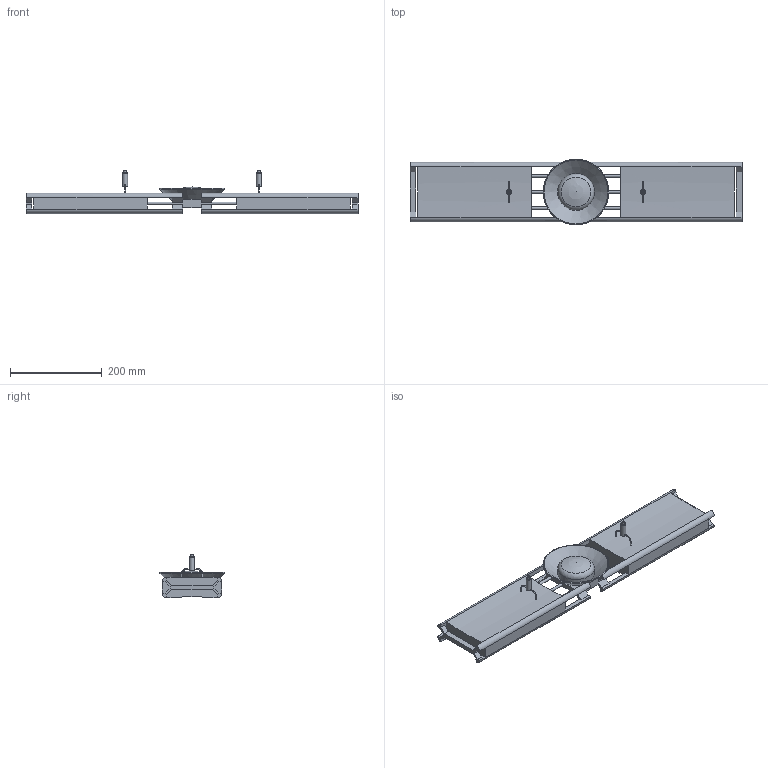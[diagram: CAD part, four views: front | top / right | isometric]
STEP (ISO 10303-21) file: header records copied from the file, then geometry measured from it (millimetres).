
FILE_DESCRIPTION(/* description */ (''),/* implementation_level */ '2;1');
FILE_NAME(/* name */ '269475_00_01.stp',/* time_stamp */ '2017-03-21T17:51:06+00:00',/* author */ (''),/* organization */ (''),/* preprocessor_version */ 'ST-DEVELOPER v15',/* originating_system */ 'SIEMENS PLM Software NX 8.5',/* authorisation */ '');
FILE_SCHEMA (('AP203_CONFIGURATION_CONTROLLED_3D_DESIGN_OF_MECHANICAL_PARTS_AND_ASSEMBLIES_MIM_LF { 1 0 10303 403 2 1 2}'));
Length unit declared in the file: millimetre
Products named in the file (1): wdar09745CC16bdo
Bounding box: 725 x 143.76 x 94.85 mm (x, y, z)
Volume: 3082150.8 mm3; surface area: 293964.6 mm2
Topology: 1 solids, 1 shells, 151 faces, 467 edges, 299 vertices
Faces by surface type: plane 103, cylinder 31, cone 9, torus 7, sphere 1
Full cylindrical faces by diameter (mm): 2 x8, 5.8 x2, 6 x6, 11 x2, 80 x1
Entity records: 5406 total; most frequent: CARTESIAN_POINT 1340, ORIENTED_EDGE 828, DIRECTION 764, EDGE_CURVE 414, LINE 328, VECTOR 328, VERTEX_POINT 282, AXIS2_PLACEMENT_3D 218
